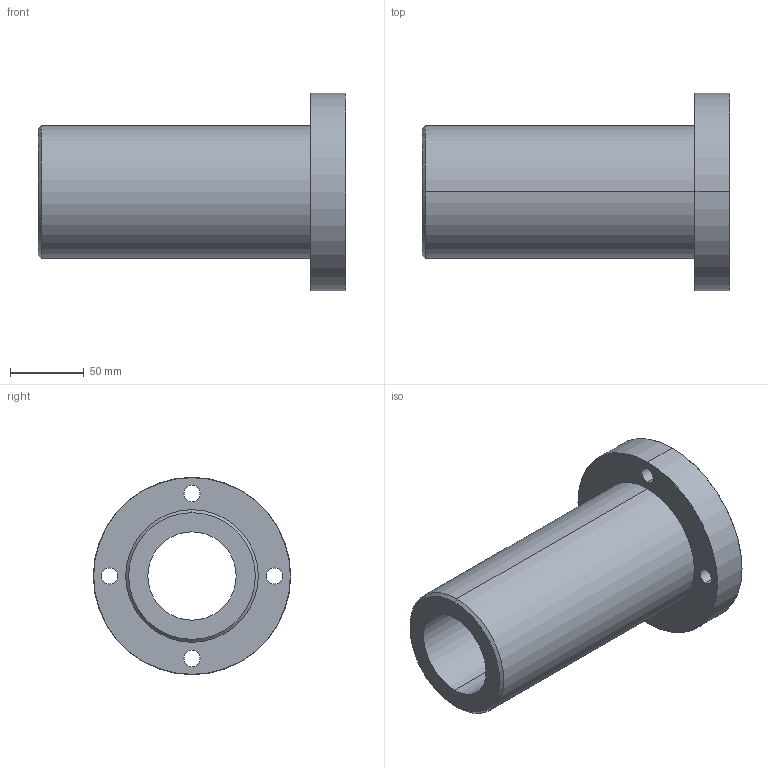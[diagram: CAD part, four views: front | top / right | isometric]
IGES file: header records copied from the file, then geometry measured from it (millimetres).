
Start section: 3D InterOp IGES (Version 21 0 1), Spatial Corp. Copyright (c) 1999-2007.
Global section: file name: DFPJR60.igs; native system: Spatial Corp.; preprocessor: 3D InterOp GENERIC/IGES 3.0; author: Noname; organization: Noname; date: 20220324.143252; units: millimetre
Bounding box: 209 x 134 x 134 mm (x, y, z)
Surface area: 127289.1 mm2 (no closed solid volume)
Topology: 0 solids, 0 shells, 35 faces, 156 edges, 156 vertices
Faces by surface type: revolution 28, extrusion 7
